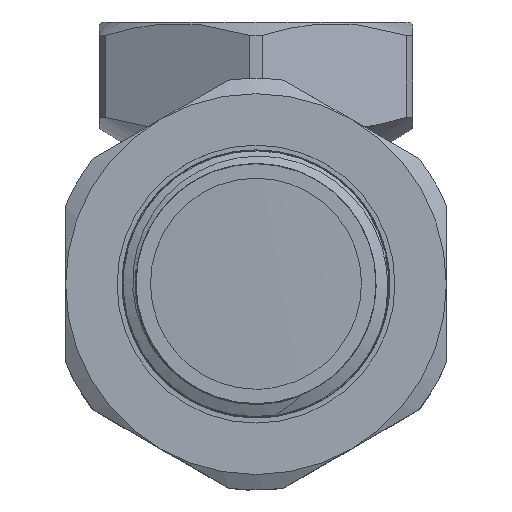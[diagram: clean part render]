
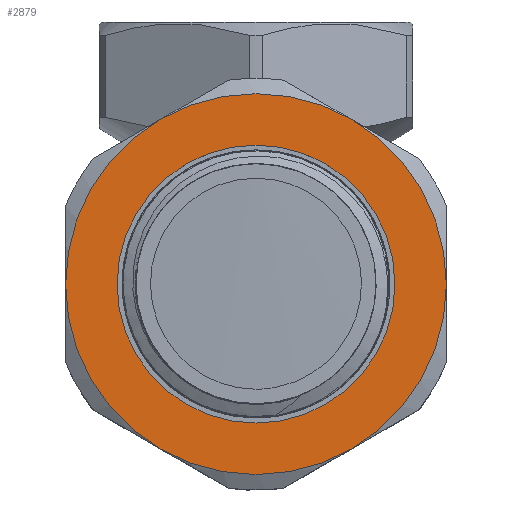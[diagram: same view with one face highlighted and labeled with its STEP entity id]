
A CAD part, top view. The second image highlights one B-rep face of the part: STEP entity #2879.
In plain terms, the highlighted planar face has unit normal (0, 0, 1).
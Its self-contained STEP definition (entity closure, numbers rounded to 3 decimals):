
#283=FACE_BOUND('',#595,.T.);
#307=PLANE('',#3177);
#421=FACE_OUTER_BOUND('',#594,.T.);
#594=EDGE_LOOP('',(#2275,#2276,#2277,#2278,#2279,#2280));
#595=EDGE_LOOP('',(#2281,#2282));
#1023=CIRCLE('',#3134,18.5);
#1025=CIRCLE('',#3137,18.5);
#1026=CIRCLE('',#3139,18.5);
#1028=CIRCLE('',#3142,18.5);
#1030=CIRCLE('',#3145,18.5);
#1032=CIRCLE('',#3148,18.5);
#1039=CIRCLE('',#3171,13.5);
#1042=CIRCLE('',#3174,13.5);
#1212=VERTEX_POINT('',#9387);
#1214=VERTEX_POINT('',#9393);
#1216=VERTEX_POINT('',#9400);
#1219=VERTEX_POINT('',#9415);
#1222=VERTEX_POINT('',#9427);
#1225=VERTEX_POINT('',#9439);
#1241=VERTEX_POINT('',#11807);
#1242=VERTEX_POINT('',#11808);
#1552=EDGE_CURVE('',#1212,#1214,#1023,.T.);
#1556=EDGE_CURVE('',#1216,#1212,#1025,.T.);
#1558=EDGE_CURVE('',#1219,#1216,#1026,.T.);
#1562=EDGE_CURVE('',#1222,#1219,#1028,.T.);
#1566=EDGE_CURVE('',#1225,#1222,#1030,.T.);
#1570=EDGE_CURVE('',#1214,#1225,#1032,.T.);
#1613=EDGE_CURVE('',#1241,#1242,#1039,.T.);
#1617=EDGE_CURVE('',#1242,#1241,#1042,.T.);
#2275=ORIENTED_EDGE('',*,*,#1570,.T.);
#2276=ORIENTED_EDGE('',*,*,#1566,.T.);
#2277=ORIENTED_EDGE('',*,*,#1562,.T.);
#2278=ORIENTED_EDGE('',*,*,#1558,.T.);
#2279=ORIENTED_EDGE('',*,*,#1556,.T.);
#2280=ORIENTED_EDGE('',*,*,#1552,.T.);
#2281=ORIENTED_EDGE('',*,*,#1613,.F.);
#2282=ORIENTED_EDGE('',*,*,#1617,.F.);
#2879=ADVANCED_FACE('',(#421,#283),#307,.T.);
#3134=AXIS2_PLACEMENT_3D('',#9397,#3533,#3534);
#3137=AXIS2_PLACEMENT_3D('',#9409,#3539,#3540);
#3139=AXIS2_PLACEMENT_3D('',#9416,#3543,#3544);
#3142=AXIS2_PLACEMENT_3D('',#9428,#3549,#3550);
#3145=AXIS2_PLACEMENT_3D('',#9440,#3555,#3556);
#3148=AXIS2_PLACEMENT_3D('',#9451,#3561,#3562);
#3171=AXIS2_PLACEMENT_3D('',#11809,#3627,#3628);
#3174=AXIS2_PLACEMENT_3D('',#11815,#3634,#3635);
#3177=AXIS2_PLACEMENT_3D('',#11818,#3640,#3641);
#3533=DIRECTION('center_axis',(0.,0.,1.));
#3534=DIRECTION('ref_axis',(0.,1.,0.));
#3539=DIRECTION('center_axis',(0.,0.,1.));
#3540=DIRECTION('ref_axis',(0.,1.,0.));
#3543=DIRECTION('center_axis',(0.,0.,1.));
#3544=DIRECTION('ref_axis',(0.,1.,0.));
#3549=DIRECTION('center_axis',(0.,0.,1.));
#3550=DIRECTION('ref_axis',(0.,1.,0.));
#3555=DIRECTION('center_axis',(0.,0.,1.));
#3556=DIRECTION('ref_axis',(0.,1.,0.));
#3561=DIRECTION('center_axis',(0.,0.,1.));
#3562=DIRECTION('ref_axis',(0.,1.,0.));
#3627=DIRECTION('center_axis',(0.,0.,1.));
#3628=DIRECTION('ref_axis',(1.,0.,0.));
#3634=DIRECTION('center_axis',(0.,0.,1.));
#3635=DIRECTION('ref_axis',(1.,0.,0.));
#3640=DIRECTION('center_axis',(0.,0.,1.));
#3641=DIRECTION('ref_axis',(1.,0.,0.));
#9387=CARTESIAN_POINT('',(9.25,-16.021,13.5));
#9393=CARTESIAN_POINT('',(18.5,0.,13.5));
#9397=CARTESIAN_POINT('Origin',(0.,0.,13.5));
#9400=CARTESIAN_POINT('',(-9.25,-16.021,13.5));
#9409=CARTESIAN_POINT('Origin',(0.,0.,13.5));
#9415=CARTESIAN_POINT('',(-18.5,0.,13.5));
#9416=CARTESIAN_POINT('Origin',(0.,0.,13.5));
#9427=CARTESIAN_POINT('',(-9.25,16.021,13.5));
#9428=CARTESIAN_POINT('Origin',(0.,0.,13.5));
#9439=CARTESIAN_POINT('',(9.25,16.021,13.5));
#9440=CARTESIAN_POINT('Origin',(0.,0.,13.5));
#9451=CARTESIAN_POINT('Origin',(0.,0.,13.5));
#11807=CARTESIAN_POINT('',(0.,-13.5,13.5));
#11808=CARTESIAN_POINT('',(0.,13.5,13.5));
#11809=CARTESIAN_POINT('Origin',(0.,0.,13.5));
#11815=CARTESIAN_POINT('Origin',(0.,0.,13.5));
#11818=CARTESIAN_POINT('Origin',(0.,-13.5,13.5));
